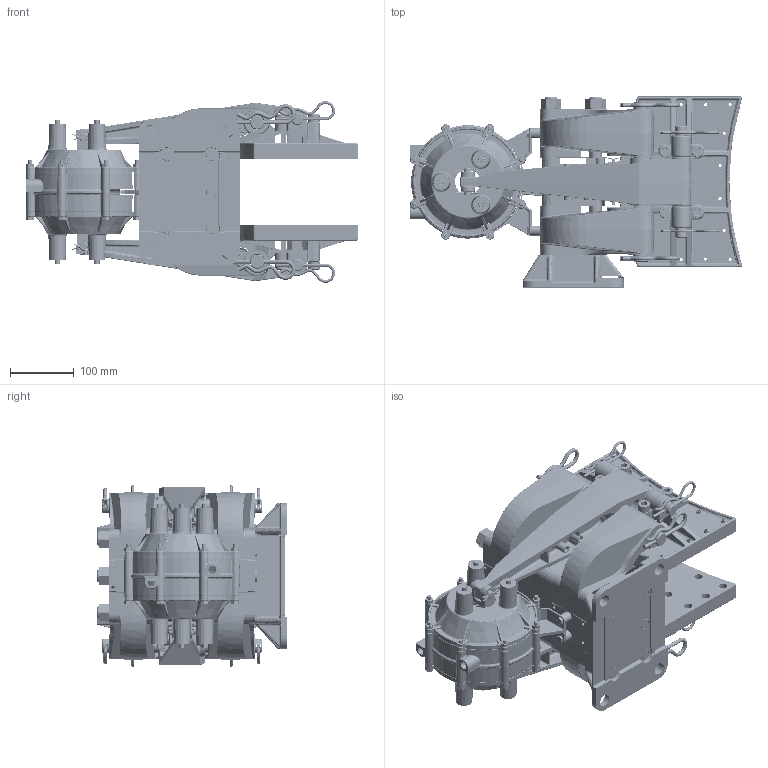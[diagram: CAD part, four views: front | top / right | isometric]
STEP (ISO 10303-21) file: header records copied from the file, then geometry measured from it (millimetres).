
FILE_DESCRIPTION (( 'STEP AP214' ), '1' );
FILE_NAME ('5025-A.STEP', '2017-07-18T21:14:36', ( '' ), ( '' ), 'SwSTEP 2.0', 'SolidWorks 2017', '' );
FILE_SCHEMA (( 'AUTOMOTIVE_DESIGN' ));
Length unit declared in the file: inch
Products named in the file (1): 5025-A
Bounding box: 519.58 x 298.7 x 284.09 mm (x, y, z)
Surface area: 1367399.6 mm2 (no closed solid volume)
Topology: 0 solids, 157 shells, 4085 faces, 12345 edges, 7981 vertices
Faces by surface type: cylinder 1179, plane 946, bspline 874, cone 603, torus 399, sphere 84
Entity records: 258739 total; most frequent: CARTESIAN_POINT 106435, ORIENTED_EDGE 20060, DIRECTION 19530, EDGE_CURVE 12286, VERTEX_POINT 7981, AXIS2_PLACEMENT_3D 7888, CIRCLE 4676, EDGE_LOOP 4488
